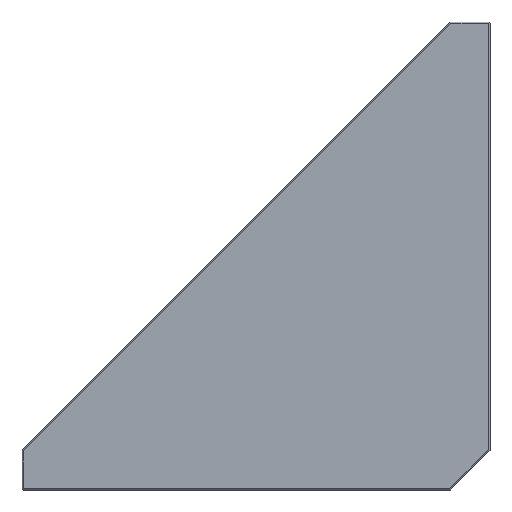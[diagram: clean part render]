
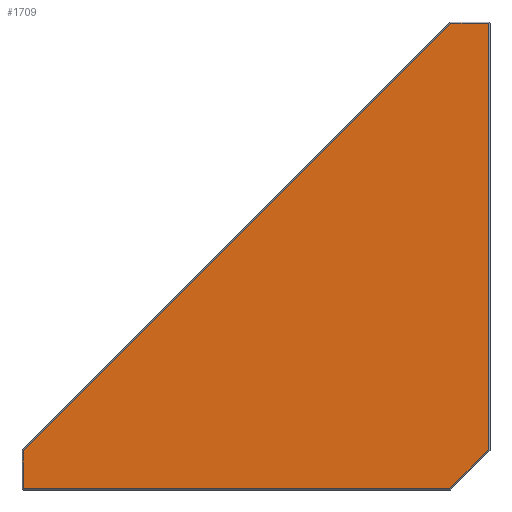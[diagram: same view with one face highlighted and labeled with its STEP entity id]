
A CAD part, left-side view. The second image highlights one B-rep face of the part: STEP entity #1709.
In plain terms, the highlighted planar face has unit normal (-1, 0, 0).
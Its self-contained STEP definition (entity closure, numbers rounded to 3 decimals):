
#71 = VECTOR ( 'NONE', #4784, 1000. ) ;
#105 = LINE ( 'NONE', #4791, #110 ) ;
#110 = VECTOR ( 'NONE', #4792, 1000. ) ;
#130 = VECTOR ( 'NONE', #4798, 1000. ) ;
#134 = LINE ( 'NONE', #4776, #71 ) ;
#144 = VECTOR ( 'NONE', #4783, 1000. ) ;
#204 = LINE ( 'NONE', #4797, #130 ) ;
#207 = LINE ( 'NONE', #4799, #239 ) ;
#231 = VECTOR ( 'NONE', #4790, 1000. ) ;
#239 = VECTOR ( 'NONE', #4800, 1000. ) ;
#281 = LINE ( 'NONE', #4782, #144 ) ;
#303 = LINE ( 'NONE', #4789, #231 ) ;
#408 = CARTESIAN_POINT ( 'NONE',  ( -18., 8.124, 0.3 ) ) ;
#884 = AXIS2_PLACEMENT_3D ( 'NONE', #3654, #3630, #3627 ) ;
#1573 = CARTESIAN_POINT ( 'NONE',  ( -18., 0.3, 8.124 ) ) ;
#1709 = ADVANCED_FACE ( 'NONE', ( #4494 ), #3632, .F. ) ;
#2299 = VERTEX_POINT ( 'NONE', #1573 ) ;
#2369 = VERTEX_POINT ( 'NONE', #3215 ) ;
#2370 = VERTEX_POINT ( 'NONE', #3213 ) ;
#2372 = VERTEX_POINT ( 'NONE', #3201 ) ;
#2373 = VERTEX_POINT ( 'NONE', #3199 ) ;
#2563 = VERTEX_POINT ( 'NONE', #408 ) ;
#3199 = CARTESIAN_POINT ( 'NONE',  ( -18., 93.7, 0.3 ) ) ;
#3201 = CARTESIAN_POINT ( 'NONE',  ( -18., 93.7, 7.876 ) ) ;
#3213 = CARTESIAN_POINT ( 'NONE',  ( -18., 7.876, 93.7 ) ) ;
#3215 = CARTESIAN_POINT ( 'NONE',  ( -18., 0.3, 93.7 ) ) ;
#3423 = ORIENTED_EDGE ( 'NONE', *, *, #5367, .T. ) ;
#3424 = ORIENTED_EDGE ( 'NONE', *, *, #5375, .T. ) ;
#3425 = ORIENTED_EDGE ( 'NONE', *, *, #5372, .T. ) ;
#3426 = ORIENTED_EDGE ( 'NONE', *, *, #5368, .T. ) ;
#3427 = ORIENTED_EDGE ( 'NONE', *, *, #5371, .T. ) ;
#3428 = ORIENTED_EDGE ( 'NONE', *, *, #5376, .T. ) ;
#3468 = EDGE_LOOP ( 'NONE', ( #3423, #3424, #3425, #3426, #3427, #3428 ) ) ;
#3627 = DIRECTION ( 'NONE',  ( 0., 0., -1. ) ) ;
#3630 = DIRECTION ( 'NONE',  ( 1., 0., 0. ) ) ;
#3632 = PLANE ( 'NONE',  #884 ) ;
#3654 = CARTESIAN_POINT ( 'NONE',  ( -18., 0., 94. ) ) ;
#4494 = FACE_OUTER_BOUND ( 'NONE', #3468, .T. ) ;
#4776 = CARTESIAN_POINT ( 'NONE',  ( -18., 93.788, 7.788 ) ) ;
#4782 = CARTESIAN_POINT ( 'NONE',  ( -18., 0.212, 8.212 ) ) ;
#4783 = DIRECTION ( 'NONE',  ( 0., -0.707, 0.707 ) ) ;
#4784 = DIRECTION ( 'NONE',  ( 0., 0.707, -0.707 ) ) ;
#4789 = CARTESIAN_POINT ( 'NONE',  ( -18., 93.7, 0. ) ) ;
#4790 = DIRECTION ( 'NONE',  ( 0., 0., -1. ) ) ;
#4791 = CARTESIAN_POINT ( 'NONE',  ( -18., 8., 93.7 ) ) ;
#4792 = DIRECTION ( 'NONE',  ( 0., 1., 0. ) ) ;
#4797 = CARTESIAN_POINT ( 'NONE',  ( -18., 0.3, 94. ) ) ;
#4798 = DIRECTION ( 'NONE',  ( 0., 0., 1. ) ) ;
#4799 = CARTESIAN_POINT ( 'NONE',  ( -18., 8., 0.3 ) ) ;
#4800 = DIRECTION ( 'NONE',  ( 0., -1., 0. ) ) ;
#5367 = EDGE_CURVE ( 'NONE', #2563, #2299, #281, .T. ) ;
#5368 = EDGE_CURVE ( 'NONE', #2370, #2372, #134, .T. ) ;
#5371 = EDGE_CURVE ( 'NONE', #2372, #2373, #303, .T. ) ;
#5372 = EDGE_CURVE ( 'NONE', #2369, #2370, #105, .T. ) ;
#5375 = EDGE_CURVE ( 'NONE', #2299, #2369, #204, .T. ) ;
#5376 = EDGE_CURVE ( 'NONE', #2373, #2563, #207, .T. ) ;
